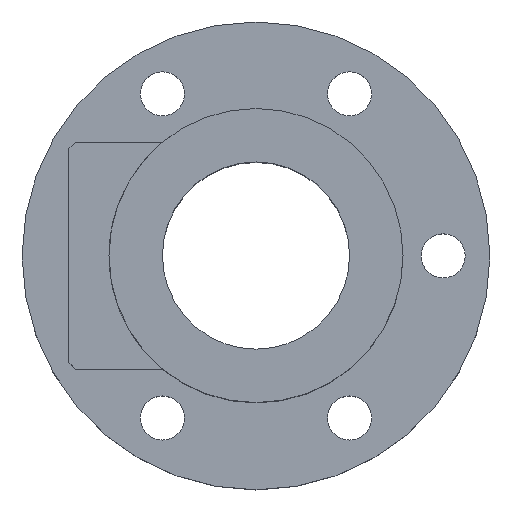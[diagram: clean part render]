
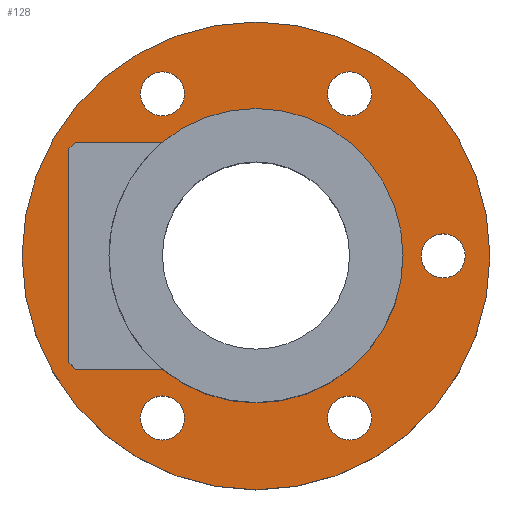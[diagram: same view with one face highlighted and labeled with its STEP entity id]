
A CAD part, top view. The second image highlights one B-rep face of the part: STEP entity #128.
In plain terms, the highlighted planar face has unit normal (0, 0, 1).
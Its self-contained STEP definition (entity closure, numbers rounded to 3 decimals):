
#97=PLANE('',#515);
#112=FACE_OUTER_BOUND('',#251,.T.);
#128=ADVANCED_FACE('',(#203,#204,#205,#112,#206,#207,#208),#97,.T.);
#203=FACE_BOUND('',#248,.T.);
#204=FACE_BOUND('',#249,.T.);
#205=FACE_BOUND('',#250,.T.);
#206=FACE_BOUND('',#252,.T.);
#207=FACE_BOUND('',#253,.T.);
#208=FACE_BOUND('',#254,.T.);
#248=EDGE_LOOP('',(#311));
#249=EDGE_LOOP('',(#312));
#250=EDGE_LOOP('',(#313));
#251=EDGE_LOOP('',(#314));
#252=EDGE_LOOP('',(#315));
#253=EDGE_LOOP('',(#316));
#254=EDGE_LOOP('',(#317));
#311=ORIENTED_EDGE('',*,*,#437,.F.);
#312=ORIENTED_EDGE('',*,*,#438,.F.);
#313=ORIENTED_EDGE('',*,*,#432,.F.);
#314=ORIENTED_EDGE('',*,*,#439,.T.);
#315=ORIENTED_EDGE('',*,*,#440,.F.);
#316=ORIENTED_EDGE('',*,*,#441,.F.);
#317=ORIENTED_EDGE('',*,*,#442,.F.);
#394=VERTEX_POINT('',#694);
#399=VERTEX_POINT('',#705);
#400=VERTEX_POINT('',#707);
#401=VERTEX_POINT('',#709);
#402=VERTEX_POINT('',#711);
#403=VERTEX_POINT('',#713);
#404=VERTEX_POINT('',#715);
#432=EDGE_CURVE('',#394,#394,#476,.T.);
#437=EDGE_CURVE('',#399,#399,#479,.T.);
#438=EDGE_CURVE('',#400,#400,#480,.T.);
#439=EDGE_CURVE('',#401,#401,#481,.T.);
#440=EDGE_CURVE('',#402,#402,#482,.T.);
#441=EDGE_CURVE('',#403,#403,#483,.T.);
#442=EDGE_CURVE('',#404,#404,#484,.T.);
#476=CIRCLE('',#505,22.);
#479=CIRCLE('',#509,3.3);
#480=CIRCLE('',#510,3.3);
#481=CIRCLE('',#511,35.);
#482=CIRCLE('',#512,3.3);
#483=CIRCLE('',#513,3.3);
#484=CIRCLE('',#514,3.3);
#505=AXIS2_PLACEMENT_3D('',#693,#564,#565);
#509=AXIS2_PLACEMENT_3D('',#704,#574,#575);
#510=AXIS2_PLACEMENT_3D('',#706,#576,#577);
#511=AXIS2_PLACEMENT_3D('',#708,#578,#579);
#512=AXIS2_PLACEMENT_3D('',#710,#580,#581);
#513=AXIS2_PLACEMENT_3D('',#712,#582,#583);
#514=AXIS2_PLACEMENT_3D('',#714,#584,#585);
#515=AXIS2_PLACEMENT_3D('',#716,#586,#587);
#564=DIRECTION('',(0.,0.,1.));
#565=DIRECTION('',(1.,0.,0.));
#574=DIRECTION('',(0.,0.,1.));
#575=DIRECTION('',(-0.5,-0.866,0.));
#576=DIRECTION('',(0.,0.,1.));
#577=DIRECTION('',(0.5,0.866,0.));
#578=DIRECTION('',(0.,0.,1.));
#579=DIRECTION('',(1.,0.,0.));
#580=DIRECTION('',(0.,0.,1.));
#581=DIRECTION('',(1.,0.,0.));
#582=DIRECTION('',(0.,0.,1.));
#583=DIRECTION('',(-1.,0.,0.));
#584=DIRECTION('',(0.,0.,1.));
#585=DIRECTION('',(0.5,-0.866,0.));
#586=DIRECTION('',(0.,0.,1.));
#587=DIRECTION('',(1.,0.,0.));
#693=CARTESIAN_POINT('',(0.,0.,12.));
#694=CARTESIAN_POINT('',(22.,0.,12.));
#704=CARTESIAN_POINT('',(14.,-24.249,12.));
#705=CARTESIAN_POINT('',(12.35,-27.107,12.));
#706=CARTESIAN_POINT('',(-14.,24.249,12.));
#707=CARTESIAN_POINT('',(-12.35,27.107,12.));
#708=CARTESIAN_POINT('',(0.,0.,12.));
#709=CARTESIAN_POINT('',(35.,0.,12.));
#710=CARTESIAN_POINT('',(14.,24.249,12.));
#711=CARTESIAN_POINT('',(17.3,24.249,12.));
#712=CARTESIAN_POINT('',(-14.,-24.249,12.));
#713=CARTESIAN_POINT('',(-17.3,-24.249,12.));
#714=CARTESIAN_POINT('',(28.,0.,12.));
#715=CARTESIAN_POINT('',(29.65,-2.858,12.));
#716=CARTESIAN_POINT('',(0.,0.,12.));
